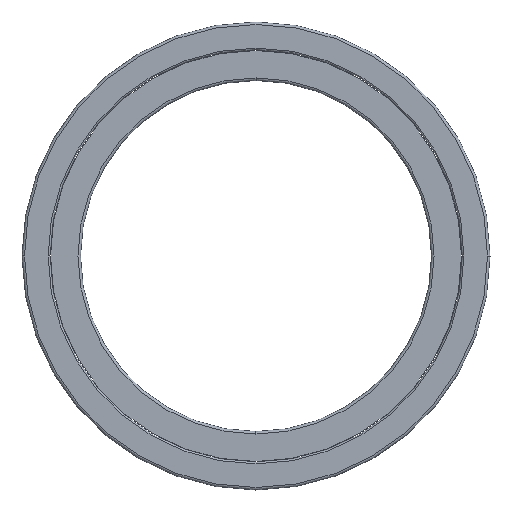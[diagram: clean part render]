
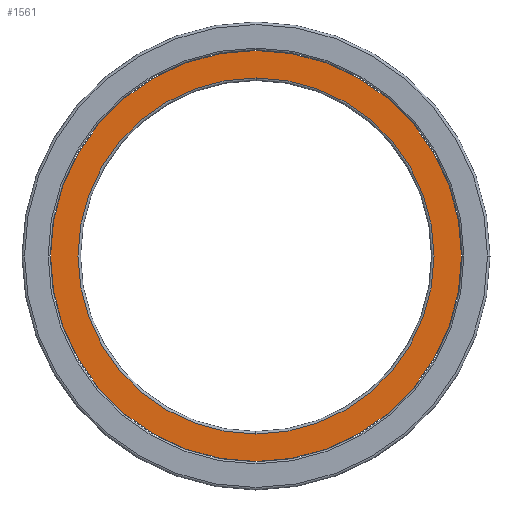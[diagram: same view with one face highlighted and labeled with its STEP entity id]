
A CAD part, front view. The second image highlights one B-rep face of the part: STEP entity #1561.
In plain terms, the highlighted planar face has unit normal (0, -1, 0).
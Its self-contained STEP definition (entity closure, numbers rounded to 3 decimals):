
#1387=CARTESIAN_POINT('',(0.,-31.75,0.));
#1388=DIRECTION('',(0.,1.,0.));
#1389=DIRECTION('',(0.,0.,-1.));
#1390=AXIS2_PLACEMENT_3D('',#1387,#1388,#1389);
#1392=CARTESIAN_POINT('',(0.,-31.75,0.));
#1393=DIRECTION('',(0.,1.,0.));
#1394=DIRECTION('',(0.,0.,1.));
#1395=AXIS2_PLACEMENT_3D('',#1392,#1393,#1394);
#1397=CARTESIAN_POINT('',(0.,-31.75,0.));
#1398=DIRECTION('',(0.,1.,0.));
#1399=DIRECTION('',(0.,0.,1.));
#1400=AXIS2_PLACEMENT_3D('',#1397,#1398,#1399);
#1406=CARTESIAN_POINT('',(0.,-31.75,0.));
#1407=DIRECTION('',(0.,-1.,0.));
#1408=DIRECTION('',(0.,0.,1.));
#1409=AXIS2_PLACEMENT_3D('',#1406,#1407,#1408);
#1494=CARTESIAN_POINT('',(0.,-31.75,267.7));
#1496=VERTEX_POINT('',#1494);
#1504=CARTESIAN_POINT('',(0.,-31.75,-267.7));
#1506=VERTEX_POINT('',#1504);
#1514=CARTESIAN_POINT('',(0.,-31.75,-231.9));
#1515=CARTESIAN_POINT('',(0.,-31.75,231.9));
#1516=VERTEX_POINT('',#1514);
#1517=VERTEX_POINT('',#1515);
#1545=CARTESIAN_POINT('',(0.,-31.75,0.));
#1546=DIRECTION('',(0.,1.,0.));
#1547=DIRECTION('',(0.,0.,-1.));
#1548=AXIS2_PLACEMENT_3D('',#1545,#1546,#1547);
#1549=PLANE('',#1548);
#1551=ORIENTED_EDGE('',*,*,#1550,.T.);
#1553=ORIENTED_EDGE('',*,*,#1552,.F.);
#1554=EDGE_LOOP('',(#1551,#1553));
#1555=FACE_OUTER_BOUND('',#1554,.F.);
#1556=ORIENTED_EDGE('',*,*,#1527,.F.);
#1558=ORIENTED_EDGE('',*,*,#1557,.F.);
#1559=EDGE_LOOP('',(#1556,#1558));
#1560=FACE_BOUND('',#1559,.F.);
#1391=CIRCLE('',#1390,231.9);
#1396=CIRCLE('',#1395,231.9);
#1401=CIRCLE('',#1400,267.7);
#1410=CIRCLE('',#1409,267.7);
#1527=EDGE_CURVE('',#1516,#1517,#1391,.T.);
#1550=EDGE_CURVE('',#1496,#1506,#1401,.T.);
#1552=EDGE_CURVE('',#1496,#1506,#1410,.T.);
#1557=EDGE_CURVE('',#1517,#1516,#1396,.T.);
#1561=ADVANCED_FACE('',(#1555,#1560),#1549,.F.);
